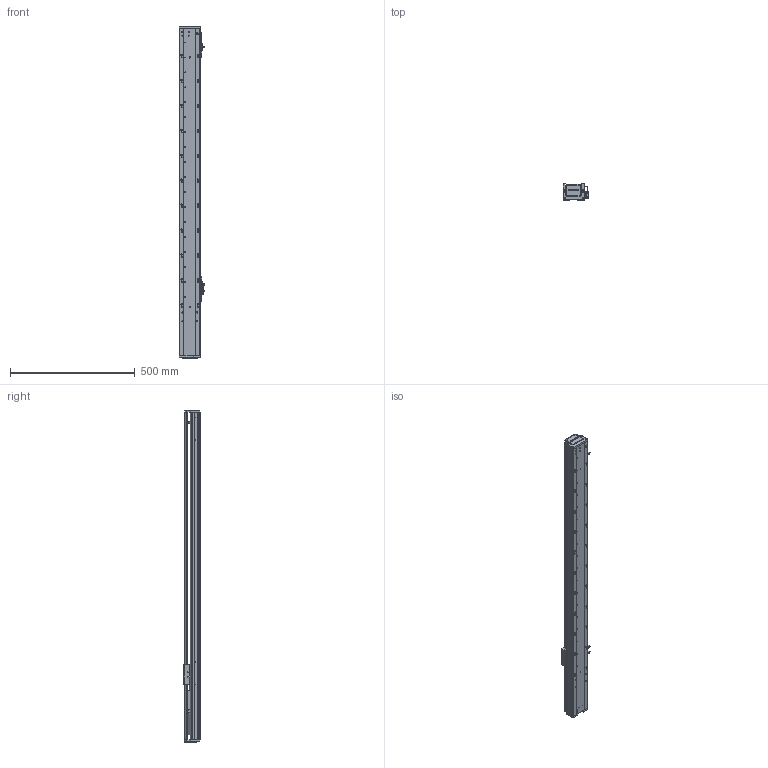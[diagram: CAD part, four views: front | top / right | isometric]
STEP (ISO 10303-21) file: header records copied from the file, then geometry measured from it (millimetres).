
FILE_DESCRIPTION (( 'STEP AP203' ), '1' );
FILE_NAME ('RY80-L1620-950-IK.SLDASM_950.step', '2021-02-22T05:32:42', ( '盈信电脑' ), ( '东莞市道滘镇水果街19号' ), 'SwSTEP 2.0', 'SolidWorks 2012', '' );
FILE_SCHEMA (( 'CONFIG_CONTROL_DESIGN' ));
Products named in the file (14): 滅袉蝶18-24; RY80-L1620-950-IK.SLDASM_950; RY80俋离覜茼え; RY80囀离ヶ啣; 侂狟100W; RY80囀离萇儂啣; 覜茼ん672; 672嫖萇羲壽假蚾釱; 滅袉蝶18-10; RY80綴裔啣; RY80-950倰第奻裔啣-IK_950; RY80萇儂傷盓傅釱; RY80臏賑輸; RY80-950倰第菁釱-IK_950
Assembly tree (16 placements, depth 2):
  RY80-L1620-950-IK.SLDASM_950
    RY80-950倰第菁釱-IK_950
    RY80臏賑輸
    RY80-950倰第奻裔啣-IK_950
    RY80萇儂傷盓傅釱
    RY80綴裔啣
    滅袉蝶18-10
    672嫖萇羲壽假蚾釱  x2
    覜茼ん672  x3
    RY80俋离覜茼え
    侂狟100W
    RY80囀离萇儂啣
    RY80囀离ヶ啣
    滅袉蝶18-24
Bounding box: 103.7 x 65 x 1331 mm (x, y, z)
Volume: 2135132.2 mm3; surface area: 910631.5 mm2
Topology: 16 solids, 16 shells, 2249 faces, 6288 edges, 4103 vertices
Faces by surface type: plane 1306, cylinder 801, cone 98, bspline 44
Entity records: 72997 total; most frequent: CARTESIAN_POINT 19421, ORIENTED_EDGE 11296, DIRECTION 10043, EDGE_CURVE 5648, VERTEX_POINT 3719, VECTOR 3589, LINE 3589, AXIS2_PLACEMENT_3D 3227
